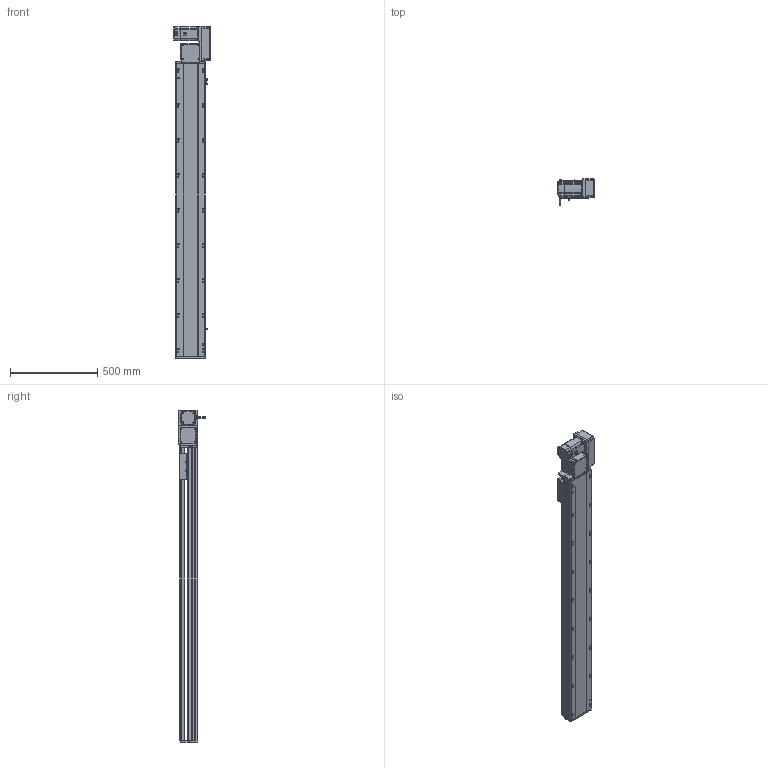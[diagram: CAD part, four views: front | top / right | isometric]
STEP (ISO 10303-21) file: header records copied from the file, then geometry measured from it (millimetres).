
FILE_DESCRIPTION (( 'STEP AP214' ), '1' );
FILE_NAME ('RTB17S-XX-1400-R-M75-C4.STEP', '2025-12-12T01:37:51', ( '' ), ( '' ), 'SwSTEP 2.0', 'SolidWorks 2018', '' );
FILE_SCHEMA (( 'AUTOMOTIVE_DESIGN' ));
Length unit declared in the file: millimetre
Products named in the file (15): EE672^RTB17S-XX-XX-R-M75-C4; RTB17S-XX-1400-R-M75-C4; RTB22S-GY-018P^RTB17S-R-々湍釱蚾饜-750W_RTB17S-XX-XX-R-M75-C4; RTB17S-賑釱^RTB17S-XX-XX-R-M75-C4; RTB22S-GY-017P^RTB17S-R-々湍釱蚾饜-750W_RTB17S-XX-XX-R-M75-C4; RTB22S-GY-005P^RTB17S-R-々湍釱蚾饜-750W_RTB17S-XX-XX-R-M75-C4; RTH13-BL-012覜茼え俋离^RTB17S-賑釱_RTB17S-XX-XX-R-M75-C4; RTB17S-L-014-T20-P75--々湍釱^RTB17S-R-々湍釱蚾饜-750W_RTB17S-XX-XX-R-M75-C4; RTB22S-GY-008-M75--萇儂啣^RTB17S-R-々湍釱蚾饜-750W_RTB17S-XX-XX-R-M75-C4; 750W萇儂^RTB17S-XX-XX-R-M75-C4; RTB17S-R-々湍釱蚾饜-750W^RTB17S-XX-XX-R-M75-C4; RTB17S-L-004-賑釱^RTB17S-賑釱_RTB17S-XX-XX-R-M75-C4; RTB17S-L-007奻裔^RTB17S-XX-XX-R-M75-C4; RTB17-R-011菁釱^RTB17S-XX-XX-R-M75-C4; RTB17S-L-001-耜醱啣^RTB17S-XX-XX-R-M75-C4
Assembly tree (17 placements, depth 3):
  RTB17S-XX-1400-R-M75-C4
    RTB17-R-011菁釱^RTB17S-XX-XX-R-M75-C4
    EE672^RTB17S-XX-XX-R-M75-C4  x3
    RTB17S-L-001-耜醱啣^RTB17S-XX-XX-R-M75-C4
    RTB17S-賑釱^RTB17S-XX-XX-R-M75-C4
      RTB17S-L-004-賑釱^RTB17S-賑釱_RTB17S-XX-XX-R-M75-C4
      RTH13-BL-012覜茼え俋离^RTB17S-賑釱_RTB17S-XX-XX-R-M75-C4
    RTB17S-L-007奻裔^RTB17S-XX-XX-R-M75-C4
    750W萇儂^RTB17S-XX-XX-R-M75-C4
    RTB17S-R-々湍釱蚾饜-750W^RTB17S-XX-XX-R-M75-C4
      RTB17S-L-014-T20-P75--々湍釱^RTB17S-R-々湍釱蚾饜-750W_RTB17S-XX-XX-R-M75-C4
      RTB22S-GY-005P^RTB17S-R-々湍釱蚾饜-750W_RTB17S-XX-XX-R-M75-C4
      RTB22S-GY-017P^RTB17S-R-々湍釱蚾饜-750W_RTB17S-XX-XX-R-M75-C4  x2
      RTB22S-GY-008-M75--萇儂啣^RTB17S-R-々湍釱蚾饜-750W_RTB17S-XX-XX-R-M75-C4
      RTB22S-GY-018P^RTB17S-R-々湍釱蚾饜-750W_RTB17S-XX-XX-R-M75-C4
Bounding box: 207.4 x 152.7 x 1899 mm (x, y, z)
Volume: 14704223.7 mm3; surface area: 2561351.4 mm2
Topology: 17 solids, 17 shells, 2121 faces, 5890 edges, 3806 vertices
Faces by surface type: plane 974, cylinder 731, bspline 294, cone 110, sphere 8, torus 4
Entity records: 59638 total; most frequent: CARTESIAN_POINT 17554, ORIENTED_EDGE 8624, DIRECTION 8042, EDGE_CURVE 4312, AXIS2_PLACEMENT_3D 2826, VERTEX_POINT 2810, VECTOR 2390, LINE 2390
